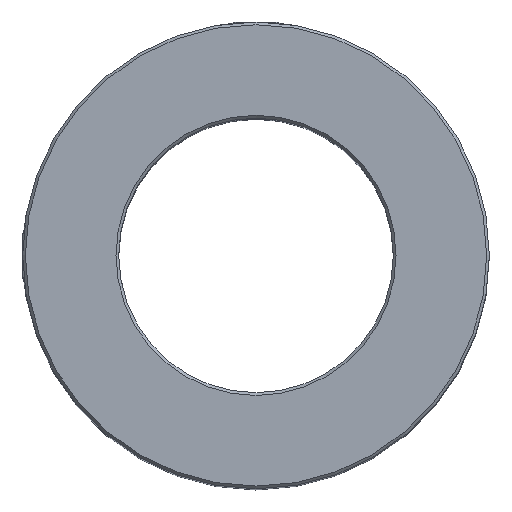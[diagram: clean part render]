
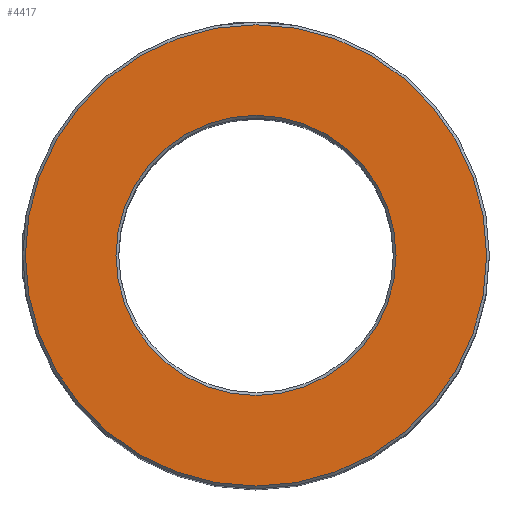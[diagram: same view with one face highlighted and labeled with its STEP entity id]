
A CAD part, top view. The second image highlights one B-rep face of the part: STEP entity #4417.
In plain terms, the highlighted planar face has unit normal (0, 0, 1).
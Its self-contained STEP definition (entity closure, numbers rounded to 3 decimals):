
#78 = CARTESIAN_POINT ( 'NONE',  ( 0., 0., 62. ) ) ;
#154 = AXIS2_PLACEMENT_3D ( 'NONE', #78, #1379, #4165 ) ;
#761 = EDGE_LOOP ( 'NONE', ( #8689 ) ) ;
#1362 = EDGE_LOOP ( 'NONE', ( #7173 ) ) ;
#1379 = DIRECTION ( 'NONE',  ( 0., 0., -1. ) ) ;
#1772 = FACE_OUTER_BOUND ( 'NONE', #1362, .T. ) ;
#1841 = EDGE_CURVE ( 'NONE', #4751, #4751, #5732, .T. ) ;
#3322 = CARTESIAN_POINT ( 'NONE',  ( 0., 0., 62. ) ) ;
#3399 = DIRECTION ( 'NONE',  ( 1., 0., 0. ) ) ;
#3493 = AXIS2_PLACEMENT_3D ( 'NONE', #5463, #6886, #3399 ) ;
#3503 = VERTEX_POINT ( 'NONE', #3554 ) ;
#3554 = CARTESIAN_POINT ( 'NONE',  ( 42., 0., 62. ) ) ;
#3873 = PLANE ( 'NONE',  #3493 ) ;
#3922 = DIRECTION ( 'NONE',  ( 0., 0., 1. ) ) ;
#4165 = DIRECTION ( 'NONE',  ( 1., 0., 0. ) ) ;
#4417 = ADVANCED_FACE ( 'NONE', ( #4521, #1772 ), #3873, .T. ) ;
#4521 = FACE_BOUND ( 'NONE', #761, .T. ) ;
#4751 = VERTEX_POINT ( 'NONE', #6850 ) ;
#5463 = CARTESIAN_POINT ( 'NONE',  ( 0., 0., 62. ) ) ;
#5732 = CIRCLE ( 'NONE', #154, 25.5 ) ;
#6850 = CARTESIAN_POINT ( 'NONE',  ( 25.5, 0., 62. ) ) ;
#6886 = DIRECTION ( 'NONE',  ( 0., 0., 1. ) ) ;
#7173 = ORIENTED_EDGE ( 'NONE', *, *, #9073, .T. ) ;
#7415 = AXIS2_PLACEMENT_3D ( 'NONE', #3322, #3922, #8881 ) ;
#7550 = CIRCLE ( 'NONE', #7415, 42. ) ;
#8689 = ORIENTED_EDGE ( 'NONE', *, *, #1841, .T. ) ;
#8881 = DIRECTION ( 'NONE',  ( 1., 0., 0. ) ) ;
#9073 = EDGE_CURVE ( 'NONE', #3503, #3503, #7550, .T. ) ;
